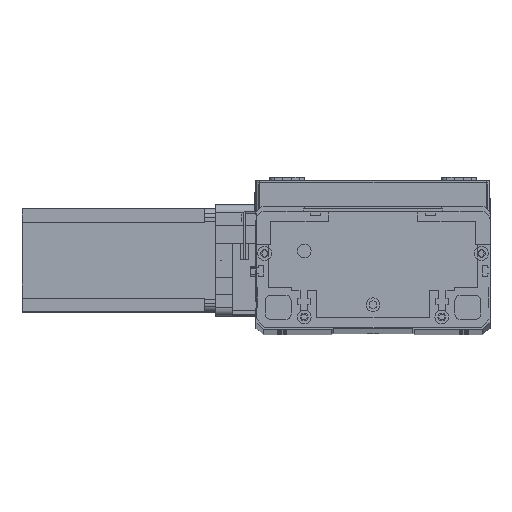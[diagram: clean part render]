
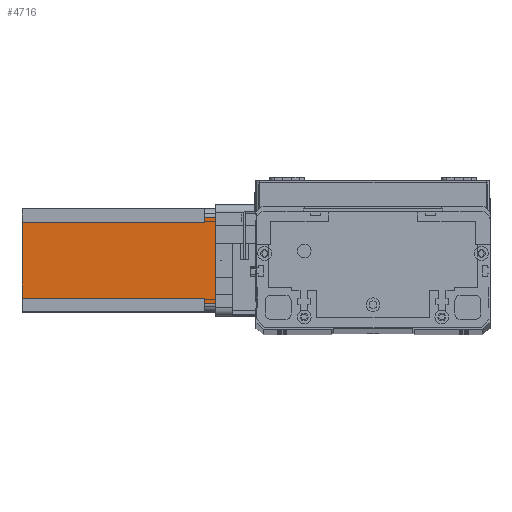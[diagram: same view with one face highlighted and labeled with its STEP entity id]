
A CAD part, top view. The second image highlights one B-rep face of the part: STEP entity #4716.
In plain terms, the highlighted planar face has unit normal (0, 0, 1) as drawn and (0, -1, 0) by its records, which use the part's own axes.
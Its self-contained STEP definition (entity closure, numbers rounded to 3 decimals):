
#676 = ORIENTED_EDGE ( 'NONE', *, *, #1788, .F. ) ;
#863 = DIRECTION ( 'NONE',  ( 1., 0., 0. ) ) ;
#898 = EDGE_CURVE ( 'NONE', #4817, #8959, #20411, .T. ) ;
#1072 = EDGE_CURVE ( 'NONE', #8959, #4968, #6785, .T. ) ;
#1214 = EDGE_CURVE ( 'NONE', #5297, #1561, #22912, .T. ) ;
#1306 = CARTESIAN_POINT ( 'NONE',  ( 52., 0., -6.5 ) ) ;
#1343 = EDGE_CURVE ( 'NONE', #1819, #1561, #18677, .T. ) ;
#1561 = VERTEX_POINT ( 'NONE', #5142 ) ;
#1576 = EDGE_CURVE ( 'NONE', #26596, #1819, #3060, .T. ) ;
#1753 = EDGE_CURVE ( 'NONE', #26596, #15894, #25861, .T. ) ;
#1788 = EDGE_CURVE ( 'NONE', #4817, #15894, #24041, .T. ) ;
#1819 = VERTEX_POINT ( 'NONE', #9643 ) ;
#3060 = LINE ( 'NONE', #13030, #18968 ) ;
#3142 = VECTOR ( 'NONE', #26511, 1000. ) ;
#4494 = DIRECTION ( 'NONE',  ( 0., 0., -1. ) ) ;
#4716 = ADVANCED_FACE ( 'NONE', ( #13391 ), #15051, .T. ) ;
#4817 = VERTEX_POINT ( 'NONE', #8569 ) ;
#4968 = VERTEX_POINT ( 'NONE', #25802 ) ;
#5142 = CARTESIAN_POINT ( 'NONE',  ( 5., 0., -6.5 ) ) ;
#5297 = VERTEX_POINT ( 'NONE', #17658 ) ;
#5943 = CARTESIAN_POINT ( 'NONE',  ( 55., 0., -6.5 ) ) ;
#6065 = CARTESIAN_POINT ( 'NONE',  ( 0., 0., 0. ) ) ;
#6650 = DIRECTION ( 'NONE',  ( -1., 0., 0. ) ) ;
#6785 = LINE ( 'NONE', #21795, #11765 ) ;
#7563 = ORIENTED_EDGE ( 'NONE', *, *, #1753, .T. ) ;
#8549 = CARTESIAN_POINT ( 'NONE',  ( 0., 0., -112.5 ) ) ;
#8569 = CARTESIAN_POINT ( 'NONE',  ( 52., 0., -6.5 ) ) ;
#8692 = LINE ( 'NONE', #6065, #3142 ) ;
#8959 = VERTEX_POINT ( 'NONE', #5943 ) ;
#9643 = CARTESIAN_POINT ( 'NONE',  ( 8., 0., -6.5 ) ) ;
#11742 = ORIENTED_EDGE ( 'NONE', *, *, #1343, .F. ) ;
#11765 = VECTOR ( 'NONE', #14672, 1000. ) ;
#12804 = EDGE_CURVE ( 'NONE', #5297, #4968, #8692, .T. ) ;
#13030 = CARTESIAN_POINT ( 'NONE',  ( 8., 0., -112.5 ) ) ;
#13184 = DIRECTION ( 'NONE',  ( 0., 0., -1. ) ) ;
#13187 = VECTOR ( 'NONE', #26281, 1000. ) ;
#13216 = VECTOR ( 'NONE', #6650, 1000. ) ;
#13226 = DIRECTION ( 'NONE',  ( 0., 0., 1. ) ) ;
#13391 = FACE_OUTER_BOUND ( 'NONE', #21551, .T. ) ;
#13444 = DIRECTION ( 'NONE',  ( 0., -1., 0. ) ) ;
#13522 = AXIS2_PLACEMENT_3D ( 'NONE', #13789, #13444, #13184 ) ;
#13789 = CARTESIAN_POINT ( 'NONE',  ( 0., 0., -112.5 ) ) ;
#13984 = CARTESIAN_POINT ( 'NONE',  ( 5., 0., -112.5 ) ) ;
#14672 = DIRECTION ( 'NONE',  ( 0., 0., 1. ) ) ;
#14957 = VECTOR ( 'NONE', #863, 1000. ) ;
#15051 = PLANE ( 'NONE',  #13522 ) ;
#15894 = VERTEX_POINT ( 'NONE', #24214 ) ;
#17658 = CARTESIAN_POINT ( 'NONE',  ( 5., 0., 0. ) ) ;
#18677 = LINE ( 'NONE', #23248, #13216 ) ;
#18792 = ORIENTED_EDGE ( 'NONE', *, *, #1214, .T. ) ;
#18968 = VECTOR ( 'NONE', #13226, 1000. ) ;
#19285 = DIRECTION ( 'NONE',  ( 1., 0., 0. ) ) ;
#19355 = CARTESIAN_POINT ( 'NONE',  ( 8., 0., -112.5 ) ) ;
#19834 = ORIENTED_EDGE ( 'NONE', *, *, #1072, .T. ) ;
#20411 = LINE ( 'NONE', #1306, #14957 ) ;
#21265 = ORIENTED_EDGE ( 'NONE', *, *, #898, .T. ) ;
#21551 = EDGE_LOOP ( 'NONE', ( #21265, #19834, #22718, #18792, #11742, #22773, #7563, #676 ) ) ;
#21795 = CARTESIAN_POINT ( 'NONE',  ( 55., 0., -112.5 ) ) ;
#22302 = VECTOR ( 'NONE', #4494, 1000. ) ;
#22718 = ORIENTED_EDGE ( 'NONE', *, *, #12804, .F. ) ;
#22773 = ORIENTED_EDGE ( 'NONE', *, *, #1576, .F. ) ;
#22912 = LINE ( 'NONE', #13984, #22302 ) ;
#23248 = CARTESIAN_POINT ( 'NONE',  ( 8., 0., -6.5 ) ) ;
#23990 = CARTESIAN_POINT ( 'NONE',  ( 52., 0., -112.5 ) ) ;
#24041 = LINE ( 'NONE', #23990, #13187 ) ;
#24214 = CARTESIAN_POINT ( 'NONE',  ( 52., 0., -112.5 ) ) ;
#25251 = VECTOR ( 'NONE', #19285, 1000. ) ;
#25802 = CARTESIAN_POINT ( 'NONE',  ( 55., 0., 0. ) ) ;
#25861 = LINE ( 'NONE', #8549, #25251 ) ;
#26281 = DIRECTION ( 'NONE',  ( 0., 0., -1. ) ) ;
#26511 = DIRECTION ( 'NONE',  ( 1., 0., 0. ) ) ;
#26596 = VERTEX_POINT ( 'NONE', #19355 ) ;
